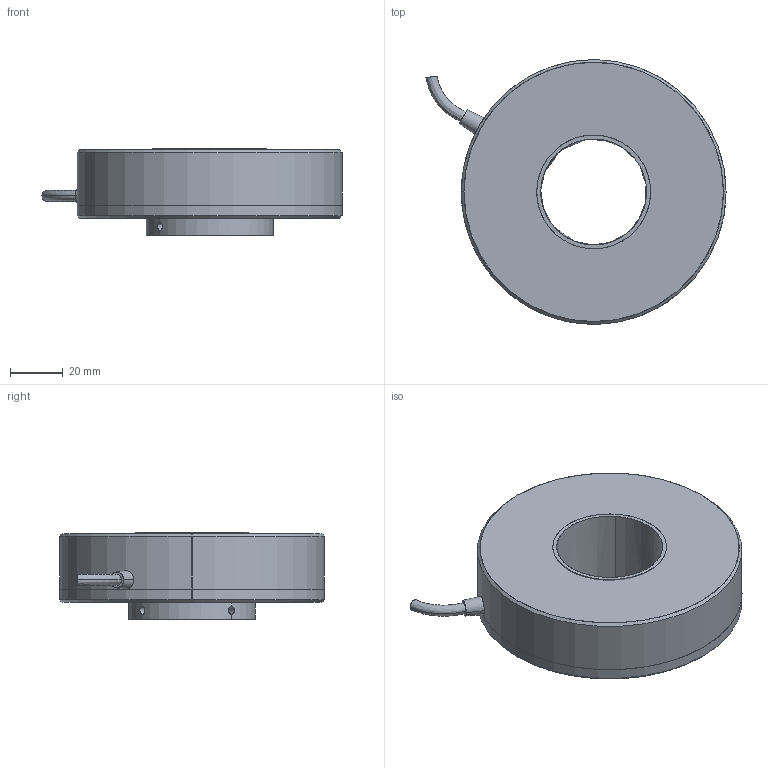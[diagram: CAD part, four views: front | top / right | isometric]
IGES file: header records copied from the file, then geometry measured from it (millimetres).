
Start section: SolidWorks IGES file using analytic representation for surfaces
Bounding box: 113.36 x 100 x 33 mm (x, y, z)
Surface area: 48000.1 mm2 (no closed solid volume)
Topology: 0 solids, 0 shells, 55 faces, 1892 edges, 1892 vertices
Faces by surface type: revolution 40, bspline 15
